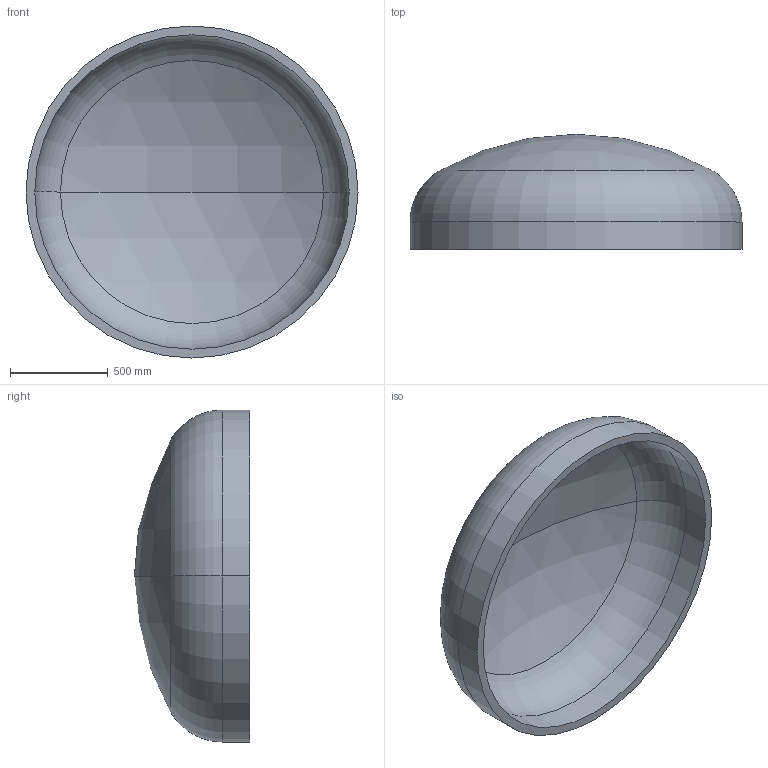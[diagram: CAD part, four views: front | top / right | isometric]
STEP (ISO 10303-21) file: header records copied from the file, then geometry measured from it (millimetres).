
FILE_DESCRIPTION (( 'STEP AP203' ), '1' );
FILE_NAME ('DIN 28013 Korbbogenform_-_Boden DIN 28013 - 1700 x 140 - I - s=45.step', '2016-07-01T11:51:10', ( '' ), ( '' ), 'SwSTEP 2.0', 'SolidWorks 2013', '' );
FILE_SCHEMA (( 'CONFIG_CONTROL_DESIGN' ));
Length unit declared in the file: millimetre
Products named in the file (1): DIN 28013 Korbbogenform_-_Boden DIN 28013 - 1700 x 140 - I - s=45
Bounding box: 1700 x 589.5 x 1700 mm (x, y, z)
Volume: 169209978.8 mm3; surface area: 7758652.6 mm2
Topology: 1 solids, 1 shells, 13 faces, 24 edges, 14 vertices
Faces by surface type: torus 4, cylinder 4, sphere 4, plane 1
Entity records: 407 total; most frequent: DIRECTION 72, CARTESIAN_POINT 52, ORIENTED_EDGE 48, AXIS2_PLACEMENT_3D 34, EDGE_CURVE 24, CIRCLE 20, VERTEX_POINT 14, EDGE_LOOP 14
